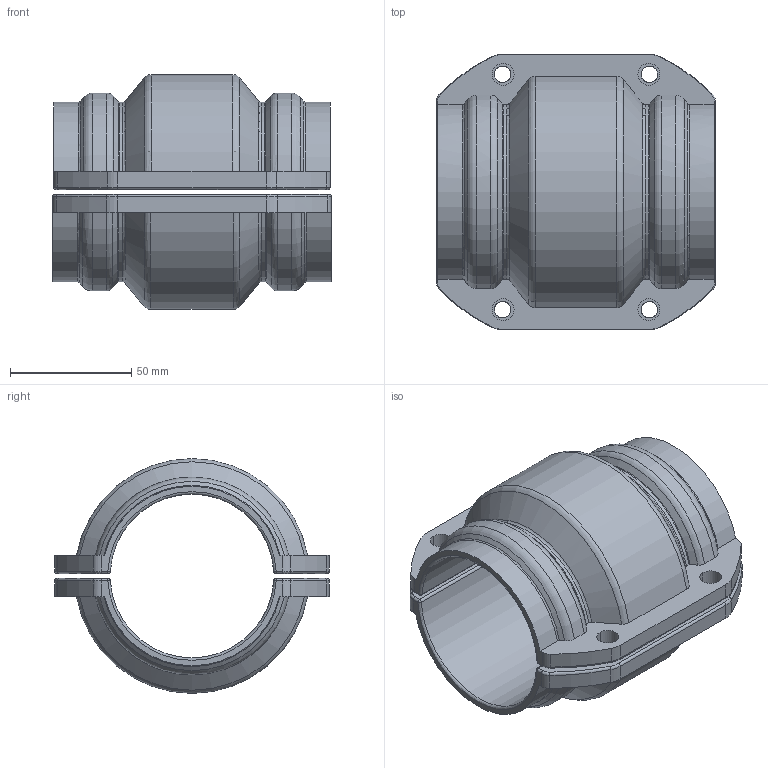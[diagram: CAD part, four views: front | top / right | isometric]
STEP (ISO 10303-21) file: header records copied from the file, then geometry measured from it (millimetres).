
FILE_DESCRIPTION((''),'2;1');
FILE_NAME('20156002_ASM_9_ASM','2017-05-15T',('Administrator'),(''),'PRO/ENGINEER BY PARAMETRIC TECHNOLOGY CORPORATION, 2009360','PRO/ENGINEER BY PARAMETRIC TECHNOLOGY CORPORATION, 2009360','');
FILE_SCHEMA(('AUTOMOTIVE_DESIGN_CC2 { 1 2 10303 214 -1 1 5 2 }'));
Length unit declared in the file: millimetre
Products named in the file (3): 201560020000_12; 201560020001_3; 20156002_ASM_9_ASM
Assembly tree (2 placements, depth 2):
  20156002_ASM_9_ASM
    201560020000_12
    201560020001_3
Bounding box: 115.01 x 113.24 x 96.8 mm (x, y, z)
Volume: 278383.4 mm3; surface area: 73907.2 mm2
Topology: 2 solids, 2 shells, 160 faces, 488 edges, 328 vertices
Faces by surface type: cylinder 48, torus 26, extrusion 24, plane 16, bspline 16, revolution 14, cone 12, sphere 4
Entity records: 8171 total; most frequent: CARTESIAN_POINT 2269, ORIENTED_EDGE 968, DIRECTION 864, PRESENTATION_STYLE_ASSIGNMENT 486, STYLED_ITEM 486, CURVE_STYLE 484, EDGE_CURVE 484, AXIS2_PLACEMENT_3D 353
